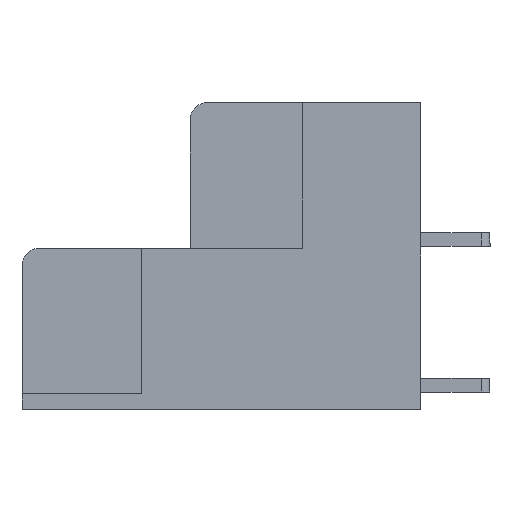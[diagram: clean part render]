
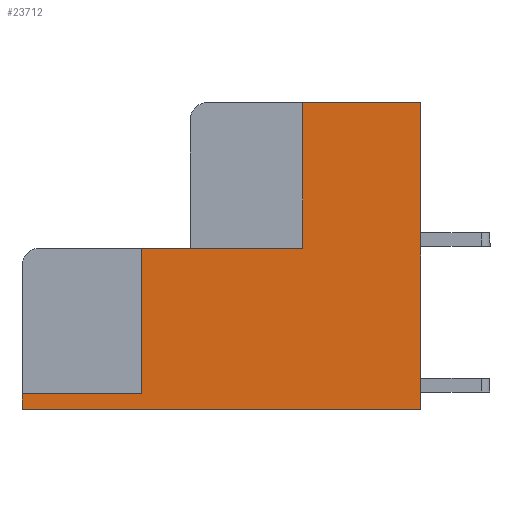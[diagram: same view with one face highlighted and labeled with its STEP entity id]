
A CAD part, left-side view. The second image highlights one B-rep face of the part: STEP entity #23712.
In plain terms, the highlighted planar face has unit normal (-1, 0, 0).
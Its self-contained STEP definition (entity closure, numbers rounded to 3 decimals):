
#1398=VERTEX_POINT('',#31412);
#1399=VERTEX_POINT('',#31414);
#1401=VERTEX_POINT('',#31420);
#1406=VERTEX_POINT('',#31433);
#1407=VERTEX_POINT('',#31435);
#1408=VERTEX_POINT('',#31440);
#1409=VERTEX_POINT('',#31442);
#1410=VERTEX_POINT('',#31444);
#3794=VECTOR('',#26747,1.);
#3798=VECTOR('',#26752,1.);
#3803=VECTOR('',#26761,1.);
#3805=VECTOR('',#26764,1.);
#3806=VECTOR('',#26765,1.);
#3807=VECTOR('',#26766,1.);
#3808=VECTOR('',#26767,1.);
#3809=VECTOR('',#26768,1.);
#6463=LINE('',#31413,#3794);
#6467=LINE('',#31421,#3798);
#6472=LINE('',#31434,#3803);
#6474=LINE('',#31438,#3805);
#6475=LINE('',#31439,#3806);
#6476=LINE('',#31441,#3807);
#6477=LINE('',#31443,#3808);
#6478=LINE('',#31445,#3809);
#9116=EDGE_CURVE('',#1398,#1399,#6463,.T.);
#9120=EDGE_CURVE('',#1401,#1398,#6467,.T.);
#9126=EDGE_CURVE('',#1406,#1407,#6472,.T.);
#9128=EDGE_CURVE('',#1399,#1406,#6474,.T.);
#9129=EDGE_CURVE('',#1408,#1401,#6475,.T.);
#9130=EDGE_CURVE('',#1409,#1408,#6476,.T.);
#9131=EDGE_CURVE('',#1410,#1409,#6477,.T.);
#9132=EDGE_CURVE('',#1407,#1410,#6478,.T.);
#12873=ORIENTED_EDGE('',*,*,#9126,.F.);
#12874=ORIENTED_EDGE('',*,*,#9128,.F.);
#12875=ORIENTED_EDGE('',*,*,#9116,.F.);
#12876=ORIENTED_EDGE('',*,*,#9120,.F.);
#12877=ORIENTED_EDGE('',*,*,#9129,.F.);
#12878=ORIENTED_EDGE('',*,*,#9130,.F.);
#12879=ORIENTED_EDGE('',*,*,#9131,.F.);
#12880=ORIENTED_EDGE('',*,*,#9132,.F.);
#20344=EDGE_LOOP('',(#12873,#12874,#12875,#12876,#12877,#12878,#12879,#12880));
#22028=FACE_BOUND('',#20344,.T.);
#23712=ADVANCED_FACE('',(#22028),#46440,.F.);
#25241=AXIS2_PLACEMENT_3D('',#31437,#26763,$);
#26747=DIRECTION('',(0.,0.,1.));
#26752=DIRECTION('',(0.,-1.,0.));
#26761=DIRECTION('',(0.,0.,1.));
#26763=DIRECTION('',(1.,0.,0.));
#26764=DIRECTION('',(0.,-1.,0.));
#26765=DIRECTION('',(0.,0.,1.));
#26766=DIRECTION('',(0.,1.,0.));
#26767=DIRECTION('',(0.,0.,-1.));
#26768=DIRECTION('',(0.,-1.,0.));
#31412=CARTESIAN_POINT('',(0.,16.1,0.9));
#31413=CARTESIAN_POINT('',(0.,16.1,0.9));
#31414=CARTESIAN_POINT('',(0.,16.1,9.3));
#31420=CARTESIAN_POINT('',(0.,23.,0.9));
#31421=CARTESIAN_POINT('',(0.,23.,0.9));
#31433=CARTESIAN_POINT('',(0.,6.8,9.3));
#31434=CARTESIAN_POINT('',(0.,6.8,9.3));
#31435=CARTESIAN_POINT('',(0.,6.8,17.7));
#31437=CARTESIAN_POINT('',(0.,3.4,13.5));
#31438=CARTESIAN_POINT('',(0.,16.1,9.3));
#31439=CARTESIAN_POINT('',(0.,23.,0.));
#31440=CARTESIAN_POINT('',(0.,23.,0.));
#31441=CARTESIAN_POINT('',(0.,0.,0.));
#31442=CARTESIAN_POINT('',(0.,0.,0.));
#31443=CARTESIAN_POINT('',(0.,0.,17.7));
#31444=CARTESIAN_POINT('',(0.,0.,17.7));
#31445=CARTESIAN_POINT('',(0.,6.8,17.7));
#46440=PLANE('',#25241);
